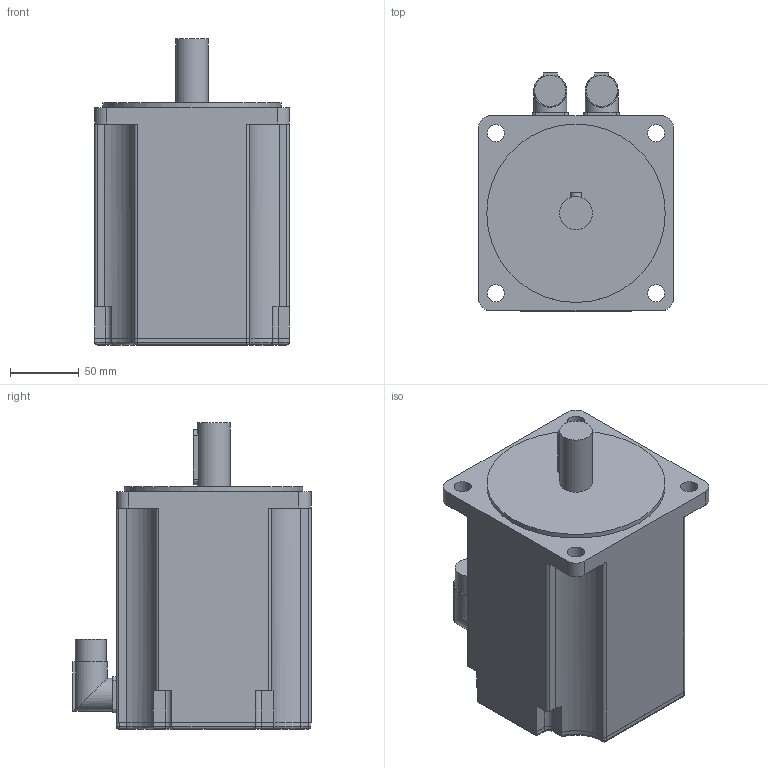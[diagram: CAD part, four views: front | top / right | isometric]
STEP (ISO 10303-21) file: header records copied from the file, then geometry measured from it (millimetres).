
FILE_DESCRIPTION(/* description */ (''),/* implementation_level */ '2;1');
FILE_NAME(/* name */ '\\Lafnas01\disegni\Archivi Lafert\3D\CAD 3D\MODELLI\Assiemi clienti\Serad\Modelli 3D Serad\B71Q\Resolver\Res Without Brake\B7108Qxx6A052033.ipt.stp',/* time_stamp */ '2015-09-07T10:52:59+02:00',/* author */ ('Pastrello Ylenia'),/* organization */ (''),/* preprocessor_version */ 'ST-DEVELOPER v15.6',/* originating_system */ 'Autodesk Inventor 2015',/* authorisation */ '');
FILE_SCHEMA (('AUTOMOTIVE_DESIGN { 1 0 10303 214 3 1 1 }'));
Length unit declared in the file: millimetre
Products named in the file (1): B7108Qxx6A052033
Bounding box: 142 x 173.5 x 223 mm (x, y, z)
Volume: 3139370.1 mm3; surface area: 144932.2 mm2
Topology: 1 solids, 1 shells, 154 faces, 400 edges, 258 vertices
Faces by surface type: plane 72, cylinder 70, torus 8, sphere 4
Full cylindrical faces by diameter (mm): 12.5 x4, 22.7 x2, 24 x3, 130 x1
Entity records: 4790 total; most frequent: CARTESIAN_POINT 933, DIRECTION 828, ORIENTED_EDGE 772, EDGE_CURVE 386, AXIS2_PLACEMENT_3D 297, VERTEX_POINT 254, LINE 234, VECTOR 234
